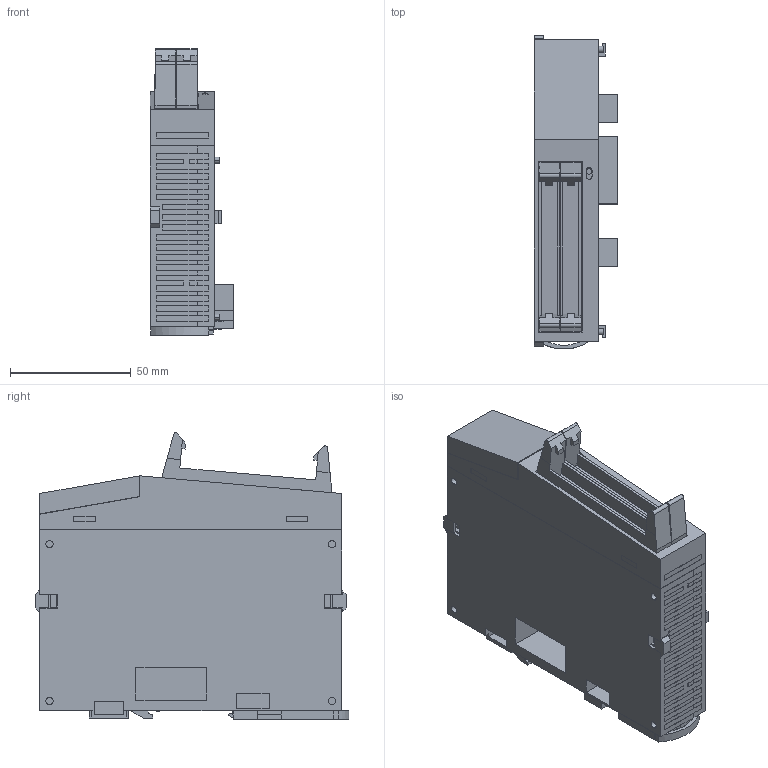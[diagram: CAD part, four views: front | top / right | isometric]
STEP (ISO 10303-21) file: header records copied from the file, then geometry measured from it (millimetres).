
FILE_DESCRIPTION (( 'STEP AP203' ), '1' );
FILE_NAME ('agm1xy64d2t.STEP', '2021-01-14T06:52:26', ( '' ), ( '' ), 'SwSTEP 2.0', 'SolidWorks 2017', '' );
FILE_SCHEMA (( 'CONFIG_CONTROL_DESIGN' ));
Length unit declared in the file: millimetre
Products named in the file (1): agm1xy64d2t
Bounding box: 34.6 x 129.95 x 118.67 mm (x, y, z)
Volume: 311538.6 mm3; surface area: 47943.8 mm2
Topology: 1 solids, 1 shells, 761 faces, 2159 edges, 1432 vertices
Faces by surface type: plane 723, cylinder 38
Entity records: 24320 total; most frequent: CARTESIAN_POINT 4368, ORIENTED_EDGE 4318, DIRECTION 3763, EDGE_CURVE 2159, VECTOR 2069, LINE 2069, VERTEX_POINT 1432, AXIS2_PLACEMENT_3D 847
